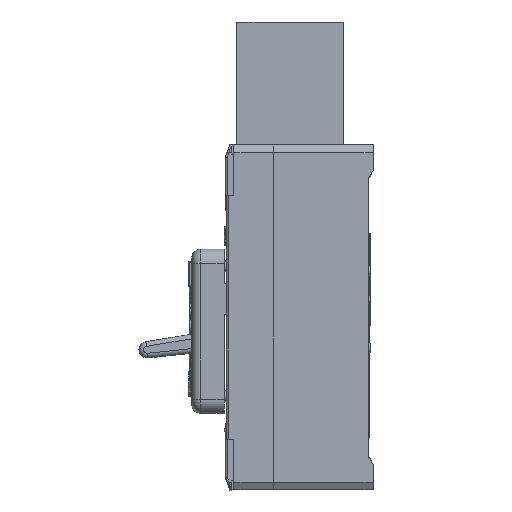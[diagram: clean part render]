
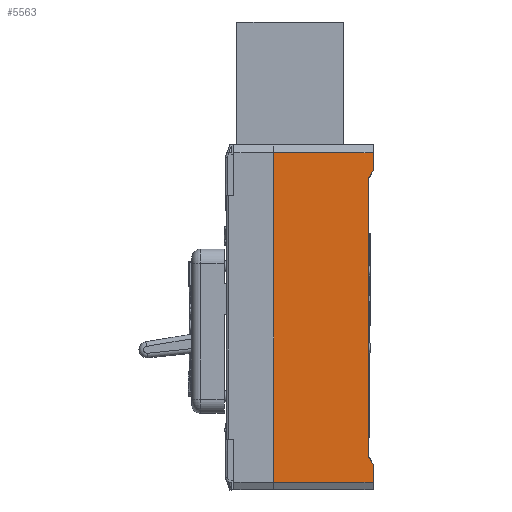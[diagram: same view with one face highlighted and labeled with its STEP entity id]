
A CAD part, left-side view. The second image highlights one B-rep face of the part: STEP entity #5563.
In plain terms, the highlighted planar face has unit normal (-1, 0, 0).
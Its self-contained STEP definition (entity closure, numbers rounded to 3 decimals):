
#2553 = ORIENTED_EDGE ( 'NONE', *, *, #115626, .F. ) ;
#2560 = ORIENTED_EDGE ( 'NONE', *, *, #115470, .T. ) ;
#2564 = ORIENTED_EDGE ( 'NONE', *, *, #80083, .T. ) ;
#2572 = ORIENTED_EDGE ( 'NONE', *, *, #80115, .F. ) ;
#2587 = ORIENTED_EDGE ( 'NONE', *, *, #80101, .T. ) ;
#2598 = ORIENTED_EDGE ( 'NONE', *, *, #115342, .T. ) ;
#2769 = ORIENTED_EDGE ( 'NONE', *, *, #115266, .F. ) ;
#2774 = ORIENTED_EDGE ( 'NONE', *, *, #114934, .F. ) ;
#4983 = CARTESIAN_POINT ( 'NONE',  ( -116.374, 31.96, 109.17 ) ) ;
#5063 = CARTESIAN_POINT ( 'NONE',  ( -116.374, 31.96, -104.6 ) ) ;
#5225 = CARTESIAN_POINT ( 'NONE',  ( -116.374, -29.49, -87.615 ) ) ;
#5357 = CARTESIAN_POINT ( 'NONE',  ( -116.374, -32.49, -92.811 ) ) ;
#5390 = CARTESIAN_POINT ( 'NONE',  ( -116.374, -32.49, -104.6 ) ) ;
#5443 = CARTESIAN_POINT ( 'NONE',  ( -116.374, -32.49, 109.17 ) ) ;
#5563 = ADVANCED_FACE ( 'NONE', ( #19705 ), #87275, .T. ) ;
#5825 = CARTESIAN_POINT ( 'NONE',  ( -116.374, -29.49, 92.185 ) ) ;
#8932 = LINE ( 'NONE', #11785, #8939 ) ;
#8939 = VECTOR ( 'NONE', #11787, 1000. ) ;
#10373 = LINE ( 'NONE', #40707, #10388 ) ;
#10388 = VECTOR ( 'NONE', #40719, 1000. ) ;
#11785 = CARTESIAN_POINT ( 'NONE',  ( -116.374, -29.49, -109.6 ) ) ;
#11787 = DIRECTION ( 'NONE',  ( 0., 0., -1. ) ) ;
#19705 = FACE_OUTER_BOUND ( 'NONE', #104351, .T. ) ;
#37758 = CARTESIAN_POINT ( 'NONE',  ( -116.374, -32.49, 109.17 ) ) ;
#37764 = DIRECTION ( 'NONE',  ( 0., 1., 0. ) ) ;
#37799 = DIRECTION ( 'NONE',  ( 0., -1., 0. ) ) ;
#37806 = CARTESIAN_POINT ( 'NONE',  ( -116.374, -32.49, -104.6 ) ) ;
#37832 = DIRECTION ( 'NONE',  ( 0., 0., 1. ) ) ;
#37839 = CARTESIAN_POINT ( 'NONE',  ( -116.374, 31.96, -109.6 ) ) ;
#40707 = CARTESIAN_POINT ( 'NONE',  ( -116.374, -39.76, -105.403 ) ) ;
#40719 = DIRECTION ( 'NONE',  ( 0., -0.5, -0.866 ) ) ;
#41116 = CARTESIAN_POINT ( 'NONE',  ( -116.374, -32.49, -109.6 ) ) ;
#41121 = DIRECTION ( 'NONE',  ( 0., 0., 1. ) ) ;
#41638 = CARTESIAN_POINT ( 'NONE',  ( -116.374, -32.49, -109.6 ) ) ;
#41654 = DIRECTION ( 'NONE',  ( 0., 0., 1. ) ) ;
#42089 = DIRECTION ( 'NONE',  ( 0., 0.5, -0.866 ) ) ;
#42091 = CARTESIAN_POINT ( 'NONE',  ( -116.374, 57.136, -57.855 ) ) ;
#42356 = LINE ( 'NONE', #37758, #42364 ) ;
#42364 = VECTOR ( 'NONE', #37764, 1000. ) ;
#42388 = LINE ( 'NONE', #37806, #42393 ) ;
#42393 = VECTOR ( 'NONE', #37799, 1000. ) ;
#42411 = LINE ( 'NONE', #37839, #42416 ) ;
#42416 = VECTOR ( 'NONE', #37832, 1000. ) ;
#64744 = VERTEX_POINT ( 'NONE', #5825 ) ;
#65359 = VERTEX_POINT ( 'NONE', #5443 ) ;
#65464 = VERTEX_POINT ( 'NONE', #5390 ) ;
#65514 = VERTEX_POINT ( 'NONE', #5357 ) ;
#65769 = VERTEX_POINT ( 'NONE', #5225 ) ;
#65997 = VERTEX_POINT ( 'NONE', #5063 ) ;
#66089 = VERTEX_POINT ( 'NONE', #4983 ) ;
#80083 = EDGE_CURVE ( 'NONE', #65359, #66089, #42356, .T. ) ;
#80101 = EDGE_CURVE ( 'NONE', #65997, #65464, #42388, .T. ) ;
#80115 = EDGE_CURVE ( 'NONE', #65997, #66089, #42411, .T. ) ;
#87269 = DIRECTION ( 'NONE',  ( 0., 0., 1. ) ) ;
#87270 = DIRECTION ( 'NONE',  ( -1., 0., 0. ) ) ;
#87275 = PLANE ( 'NONE',  #110414 ) ;
#87292 = CARTESIAN_POINT ( 'NONE',  ( -116.374, -32.49, -109.6 ) ) ;
#88113 = CARTESIAN_POINT ( 'NONE',  ( -116.374, -32.49, 97.381 ) ) ;
#104351 = EDGE_LOOP ( 'NONE', ( #2553, #2560, #2564, #2572, #2587, #2598, #2769, #2774 ) ) ;
#110414 = AXIS2_PLACEMENT_3D ( 'NONE', #87292, #87270, #87269 ) ;
#114934 = EDGE_CURVE ( 'NONE', #64744, #65769, #8932, .T. ) ;
#115266 = EDGE_CURVE ( 'NONE', #65769, #65514, #10373, .T. ) ;
#115342 = EDGE_CURVE ( 'NONE', #65464, #65514, #120361, .T. ) ;
#115470 = EDGE_CURVE ( 'NONE', #126438, #65359, #120632, .T. ) ;
#115626 = EDGE_CURVE ( 'NONE', #126438, #64744, #120889, .T. ) ;
#120361 = LINE ( 'NONE', #41116, #120366 ) ;
#120366 = VECTOR ( 'NONE', #41121, 1000. ) ;
#120632 = LINE ( 'NONE', #41638, #120666 ) ;
#120666 = VECTOR ( 'NONE', #41654, 1000. ) ;
#120883 = VECTOR ( 'NONE', #42089, 1000. ) ;
#120889 = LINE ( 'NONE', #42091, #120883 ) ;
#126438 = VERTEX_POINT ( 'NONE', #88113 ) ;
